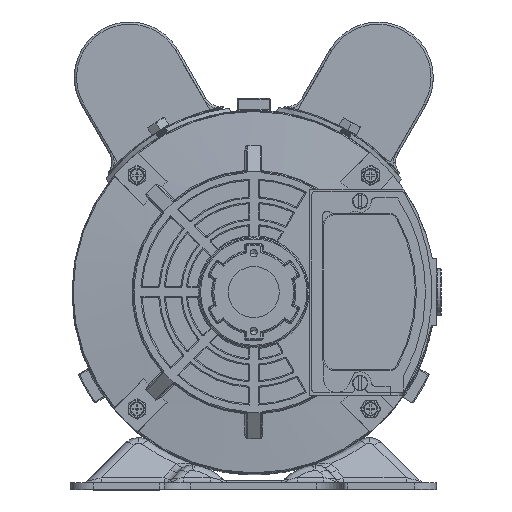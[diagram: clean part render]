
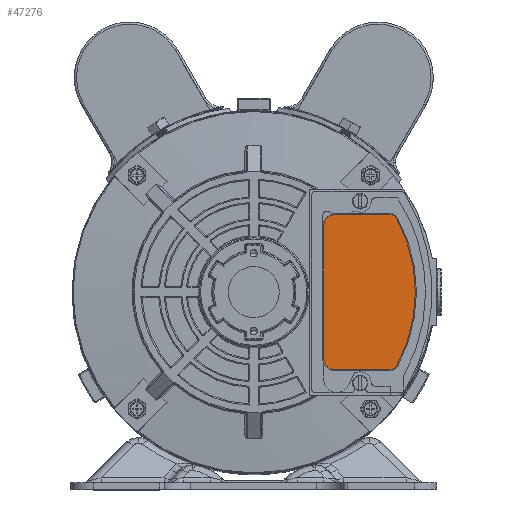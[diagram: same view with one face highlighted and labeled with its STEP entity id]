
A CAD part, top view. The second image highlights one B-rep face of the part: STEP entity #47276.
In plain terms, the highlighted planar face has unit normal (0, 0, 1).
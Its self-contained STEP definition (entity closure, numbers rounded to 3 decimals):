
#126 = EDGE_CURVE ( 'NONE', #28316, #101901, #80188, .T. ) ;
#1135 = ORIENTED_EDGE ( 'NONE', *, *, #81434, .T. ) ;
#1483 = CARTESIAN_POINT ( 'NONE',  ( 45.4, -8.74, 490.625 ) ) ;
#2277 = CARTESIAN_POINT ( 'NONE',  ( 41.885, -6.831, 490.625 ) ) ;
#3226 = DIRECTION ( 'NONE',  ( 0., 0., 1. ) ) ;
#5291 = DIRECTION ( 'NONE',  ( 0., 0., 1. ) ) ;
#7609 = ORIENTED_EDGE ( 'NONE', *, *, #78781, .T. ) ;
#7792 = CIRCLE ( 'NONE', #75137, 70. ) ;
#8515 = CARTESIAN_POINT ( 'NONE',  ( 41.885, 56.169, 490.625 ) ) ;
#12274 = FACE_OUTER_BOUND ( 'NONE', #31796, .T. ) ;
#16932 = VECTOR ( 'NONE', #86170, 1000. ) ;
#17088 = EDGE_CURVE ( 'NONE', #18918, #54078, #109733, .T. ) ;
#17458 = EDGE_CURVE ( 'NONE', #101901, #109532, #7792, .T. ) ;
#18330 = DIRECTION ( 'NONE',  ( 0., 0., 1. ) ) ;
#18918 = VERTEX_POINT ( 'NONE', #64452 ) ;
#21234 = ORIENTED_EDGE ( 'NONE', *, *, #126, .T. ) ;
#21712 = LINE ( 'NONE', #49399, #16932 ) ;
#23182 = EDGE_CURVE ( 'NONE', #54078, #39578, #21712, .T. ) ;
#25557 = LINE ( 'NONE', #62303, #72503 ) ;
#26243 = LINE ( 'NONE', #62986, #102848 ) ;
#28316 = VERTEX_POINT ( 'NONE', #63934 ) ;
#31796 = EDGE_LOOP ( 'NONE', ( #1135, #21234, #58440, #44083, #7609, #92943, #105077, #103182 ) ) ;
#36046 = CARTESIAN_POINT ( 'NONE',  ( 45.4, 58.078, 490.625 ) ) ;
#38313 = EDGE_CURVE ( 'NONE', #109532, #84495, #105749, .T. ) ;
#39052 = DIRECTION ( 'NONE',  ( 0., 0., 1. ) ) ;
#39578 = VERTEX_POINT ( 'NONE', #85014 ) ;
#39993 = DIRECTION ( 'NONE',  ( 1., 0., 0. ) ) ;
#42052 = DIRECTION ( 'NONE',  ( 0., -1., 0. ) ) ;
#44083 = ORIENTED_EDGE ( 'NONE', *, *, #38313, .T. ) ;
#44560 = CARTESIAN_POINT ( 'NONE',  ( 17.507, 54.169, 490.625 ) ) ;
#45268 = DIRECTION ( 'NONE',  ( 0., 0., 1. ) ) ;
#47276 = ADVANCED_FACE ( 'NONE', ( #12274 ), #49031, .T. ) ;
#49031 = PLANE ( 'NONE',  #81856 ) ;
#49399 = CARTESIAN_POINT ( 'NONE',  ( 11.507, 60.169, 490.625 ) ) ;
#49909 = AXIS2_PLACEMENT_3D ( 'NONE', #87855, #5291, #42052 ) ;
#52318 = EDGE_CURVE ( 'NONE', #39578, #113232, #101879, .T. ) ;
#53824 = AXIS2_PLACEMENT_3D ( 'NONE', #8515, #45268, #82028 ) ;
#54078 = VERTEX_POINT ( 'NONE', #57886 ) ;
#55089 = DIRECTION ( 'NONE',  ( 0., -1., 0. ) ) ;
#57769 = AXIS2_PLACEMENT_3D ( 'NONE', #44560, #81315, #118078 ) ;
#57886 = CARTESIAN_POINT ( 'NONE',  ( 11.507, 54.169, 490.625 ) ) ;
#58440 = ORIENTED_EDGE ( 'NONE', *, *, #17458, .T. ) ;
#62303 = CARTESIAN_POINT ( 'NONE',  ( 11.507, -10.831, 490.625 ) ) ;
#62986 = CARTESIAN_POINT ( 'NONE',  ( 44.217, 60.169, 490.625 ) ) ;
#63934 = CARTESIAN_POINT ( 'NONE',  ( 41.885, -10.831, 490.625 ) ) ;
#64452 = CARTESIAN_POINT ( 'NONE',  ( 17.507, 60.169, 490.625 ) ) ;
#72503 = VECTOR ( 'NONE', #99067, 1000. ) ;
#75137 = AXIS2_PLACEMENT_3D ( 'NONE', #100893, #18330, #55089 ) ;
#75808 = DIRECTION ( 'NONE',  ( 0., -1., 0. ) ) ;
#78781 = EDGE_CURVE ( 'NONE', #84495, #18918, #26243, .T. ) ;
#80188 = CIRCLE ( 'NONE', #95587, 4. ) ;
#81315 = DIRECTION ( 'NONE',  ( 0., 0., 1. ) ) ;
#81434 = EDGE_CURVE ( 'NONE', #113232, #28316, #25557, .T. ) ;
#81856 = AXIS2_PLACEMENT_3D ( 'NONE', #85792, #3226, #39993 ) ;
#82028 = DIRECTION ( 'NONE',  ( 0., -1., 0. ) ) ;
#84495 = VERTEX_POINT ( 'NONE', #97684 ) ;
#85014 = CARTESIAN_POINT ( 'NONE',  ( 11.507, -4.831, 490.625 ) ) ;
#85792 = CARTESIAN_POINT ( 'NONE',  ( -16.113, 24.669, 490.625 ) ) ;
#86170 = DIRECTION ( 'NONE',  ( 0., -1., 0. ) ) ;
#87855 = CARTESIAN_POINT ( 'NONE',  ( 17.507, -4.831, 490.625 ) ) ;
#89904 = CARTESIAN_POINT ( 'NONE',  ( 17.507, -10.831, 490.625 ) ) ;
#92943 = ORIENTED_EDGE ( 'NONE', *, *, #17088, .T. ) ;
#95587 = AXIS2_PLACEMENT_3D ( 'NONE', #2277, #39052, #75808 ) ;
#97684 = CARTESIAN_POINT ( 'NONE',  ( 41.885, 60.169, 490.625 ) ) ;
#99067 = DIRECTION ( 'NONE',  ( 1., 0., 0. ) ) ;
#99763 = DIRECTION ( 'NONE',  ( -1., 0., 0. ) ) ;
#100893 = CARTESIAN_POINT ( 'NONE',  ( -16.113, 24.669, 490.625 ) ) ;
#101879 = CIRCLE ( 'NONE', #49909, 6. ) ;
#101901 = VERTEX_POINT ( 'NONE', #1483 ) ;
#102848 = VECTOR ( 'NONE', #99763, 1000. ) ;
#103182 = ORIENTED_EDGE ( 'NONE', *, *, #52318, .T. ) ;
#105077 = ORIENTED_EDGE ( 'NONE', *, *, #23182, .T. ) ;
#105749 = CIRCLE ( 'NONE', #53824, 4. ) ;
#109532 = VERTEX_POINT ( 'NONE', #36046 ) ;
#109733 = CIRCLE ( 'NONE', #57769, 6. ) ;
#113232 = VERTEX_POINT ( 'NONE', #89904 ) ;
#118078 = DIRECTION ( 'NONE',  ( 0., -1., 0. ) ) ;
